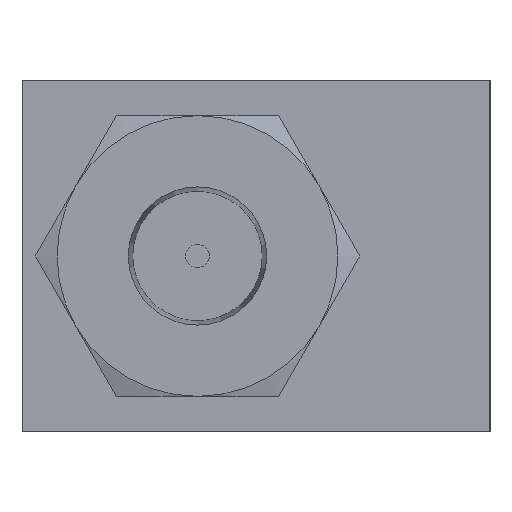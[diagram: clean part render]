
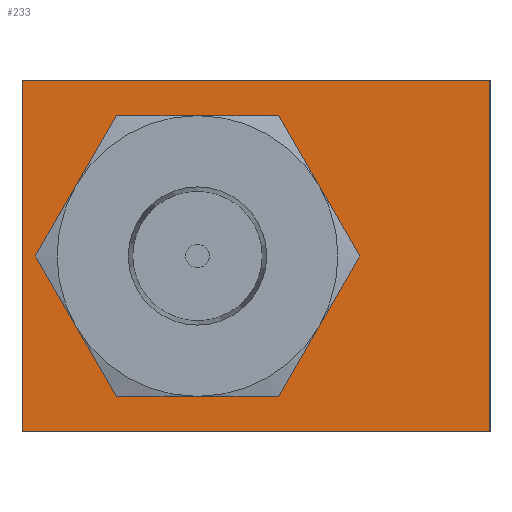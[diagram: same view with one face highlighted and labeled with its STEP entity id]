
A CAD part, left-side view. The second image highlights one B-rep face of the part: STEP entity #233.
In plain terms, the highlighted planar face has unit normal (-1, 0, 0).
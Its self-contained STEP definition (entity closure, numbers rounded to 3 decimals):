
#233=ADVANCED_FACE('',(#487,#488),#489,.F.);
#487=FACE_OUTER_BOUND('',#976,.T.);
#488=FACE_BOUND('',#977,.T.);
#489=PLANE('',#978);
#976=EDGE_LOOP('',(#1566,#1567,#1568,#1569));
#977=EDGE_LOOP('',(#1570,#1571,#1572,#1573,#1574,#1575));
#978=AXIS2_PLACEMENT_3D('',#1576,#1577,#1578);
#1566=ORIENTED_EDGE('',*,*,#3233,.F.);
#1567=ORIENTED_EDGE('',*,*,#3212,.F.);
#1568=ORIENTED_EDGE('',*,*,#3243,.T.);
#1569=ORIENTED_EDGE('',*,*,#3245,.T.);
#1570=ORIENTED_EDGE('',*,*,#3240,.F.);
#1571=ORIENTED_EDGE('',*,*,#3218,.F.);
#1572=ORIENTED_EDGE('',*,*,#3241,.F.);
#1573=ORIENTED_EDGE('',*,*,#3229,.F.);
#1574=ORIENTED_EDGE('',*,*,#3206,.F.);
#1575=ORIENTED_EDGE('',*,*,#3195,.F.);
#1576=CARTESIAN_POINT('',(0.,40.0,15.0));
#1577=DIRECTION('',(1.0,0.0,0.0));
#1578=DIRECTION('',(0.0,1.0,0.0));
#3195=EDGE_CURVE('',#3750,#3755,#3757,.T.);
#3206=EDGE_CURVE('',#3755,#3770,#3775,.T.);
#3212=EDGE_CURVE('',#3785,#3787,#3788,.T.);
#3218=EDGE_CURVE('',#3797,#3795,#3799,.T.);
#3229=EDGE_CURVE('',#3770,#3811,#3816,.T.);
#3233=EDGE_CURVE('',#3787,#3819,#3823,.T.);
#3240=EDGE_CURVE('',#3795,#3750,#3834,.T.);
#3241=EDGE_CURVE('',#3811,#3797,#3835,.T.);
#3243=EDGE_CURVE('',#3785,#3837,#3839,.T.);
#3245=EDGE_CURVE('',#3837,#3819,#3841,.T.);
#3750=VERTEX_POINT('',#4689);
#3755=VERTEX_POINT('',#4703);
#3757=CIRCLE('',#4709,12.0);
#3770=VERTEX_POINT('',#4743);
#3775=CIRCLE('',#4757,12.0);
#3785=VERTEX_POINT('',#4767);
#3787=VERTEX_POINT('',#4770);
#3788=LINE('',#4771,#4772);
#3795=VERTEX_POINT('',#4781);
#3797=VERTEX_POINT('',#4787);
#3799=CIRCLE('',#4793,12.0);
#3811=VERTEX_POINT('',#4826);
#3816=CIRCLE('',#4840,12.0);
#3819=VERTEX_POINT('',#4843);
#3823=LINE('',#4849,#4850);
#3834=CIRCLE('',#4869,12.0);
#3835=CIRCLE('',#4870,12.0);
#3837=VERTEX_POINT('',#4872);
#3839=LINE('',#4875,#4876);
#3841=LINE('',#4879,#4880);
#4689=CARTESIAN_POINT('',(0.,35.392,6.0));
#4703=CARTESIAN_POINT('',(0.,35.392,-6.0));
#4709=AXIS2_PLACEMENT_3D('',#8063,#8064,#8065);
#4743=CARTESIAN_POINT('',(0.,25.0,-12.0));
#4757=AXIS2_PLACEMENT_3D('',#8071,#8072,#8073);
#4767=CARTESIAN_POINT('',(0.,40.0,15.0));
#4770=CARTESIAN_POINT('',(0.,0.0,15.0));
#4771=CARTESIAN_POINT('',(0.,40.0,15.0));
#4772=VECTOR('',#8087,1.0);
#4781=CARTESIAN_POINT('',(0.,25.0,12.0));
#4787=CARTESIAN_POINT('',(0.,14.608,6.0));
#4793=AXIS2_PLACEMENT_3D('',#8093,#8094,#8095);
#4826=CARTESIAN_POINT('',(0.,14.608,-6.0));
#4840=AXIS2_PLACEMENT_3D('',#8101,#8102,#8103);
#4843=CARTESIAN_POINT('',(0.,0.0,-15.0));
#4849=CARTESIAN_POINT('',(0.,0.0,15.0));
#4850=VECTOR('',#8109,1.0);
#4869=AXIS2_PLACEMENT_3D('',#8122,#8123,#8124);
#4870=AXIS2_PLACEMENT_3D('',#8125,#8126,#8127);
#4872=CARTESIAN_POINT('',(0.,40.0,-15.0));
#4875=CARTESIAN_POINT('',(0.,40.0,15.0));
#4876=VECTOR('',#8129,1.0);
#4879=CARTESIAN_POINT('',(0.,40.0,-15.0));
#4880=VECTOR('',#8131,1.0);
#8063=CARTESIAN_POINT('',(0.,25.0,0.0));
#8064=DIRECTION('',(-1.0,0.0,0.0));
#8065=DIRECTION('',(0.0,0.0,-1.0));
#8071=CARTESIAN_POINT('',(0.,25.0,0.0));
#8072=DIRECTION('',(-1.0,0.0,0.0));
#8073=DIRECTION('',(0.0,0.0,-1.0));
#8087=DIRECTION('',(0.0,-1.0,0.0));
#8093=CARTESIAN_POINT('',(0.,25.0,0.0));
#8094=DIRECTION('',(-1.0,0.0,0.0));
#8095=DIRECTION('',(0.0,0.0,-1.0));
#8101=CARTESIAN_POINT('',(0.,25.0,0.0));
#8102=DIRECTION('',(-1.0,0.0,0.0));
#8103=DIRECTION('',(0.0,0.0,-1.0));
#8109=DIRECTION('',(0.0,0.0,-1.0));
#8122=CARTESIAN_POINT('',(0.,25.0,0.0));
#8123=DIRECTION('',(-1.0,0.0,0.0));
#8124=DIRECTION('',(0.0,0.0,-1.0));
#8125=CARTESIAN_POINT('',(0.,25.0,0.0));
#8126=DIRECTION('',(-1.0,0.0,0.0));
#8127=DIRECTION('',(0.0,0.0,-1.0));
#8129=DIRECTION('',(0.0,0.0,-1.0));
#8131=DIRECTION('',(0.0,-1.0,0.0));
